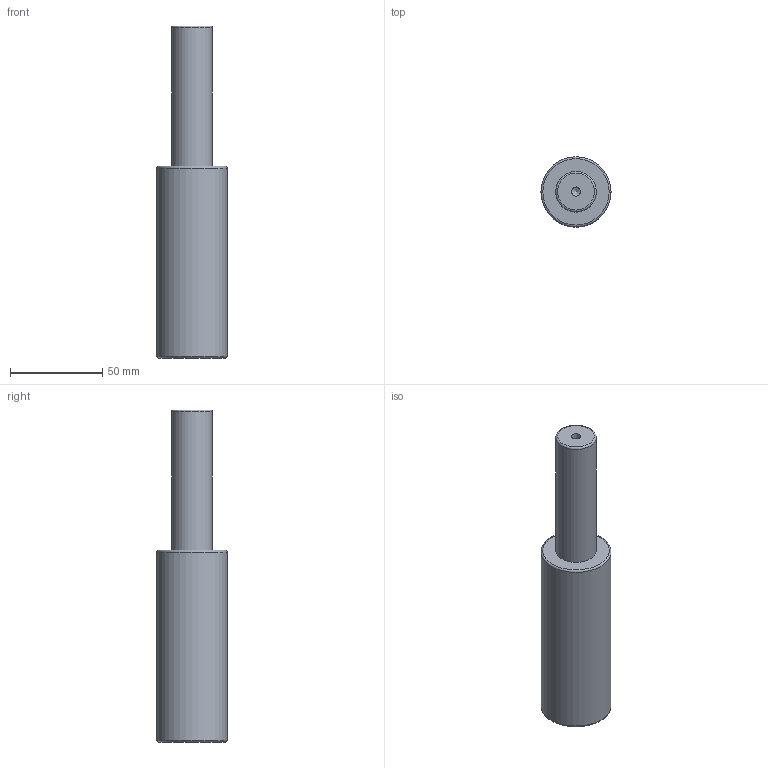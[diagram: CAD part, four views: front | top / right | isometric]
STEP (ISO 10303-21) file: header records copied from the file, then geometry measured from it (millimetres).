
FILE_DESCRIPTION(/* description */ (''),/* implementation_level */ '2;1');
FILE_NAME(/* name */ 'NV5-SMLX.38x75.stp',/* time_stamp */ '2018-08-31T16:08:35+02:00',/* author */ (''),/* organization */ (''),/* preprocessor_version */ 'ST-DEVELOPER v16',/* originating_system */ 'SIEMENS PLM Software NX 10.0',/* authorisation */ '');
FILE_SCHEMA (('AUTOMOTIVE_DESIGN { 1 0 10303 214 3 1 1 1 }'));
Length unit declared in the file: millimetre
Products named in the file (1): NV5-SMLX.38x75
Bounding box: 38 x 38 x 180 mm (x, y, z)
Volume: 145941.3 mm3; surface area: 20327 mm2
Topology: 1 solids, 1 shells, 12 faces, 24 edges, 15 vertices
Faces by surface type: cylinder 4, torus 3, plane 3, cone 2
Full cylindrical faces by diameter (mm): 5 x1, 6.8 x1, 22 x1, 38 x1
Entity records: 266 total; most frequent: DIRECTION 48, CARTESIAN_POINT 37, FACE_BOUND 24, AXIS2_PLACEMENT_3D 24, EDGE_LOOP 22, ORIENTED_EDGE 22, VERTEX_POINT 13, ADVANCED_FACE 12
